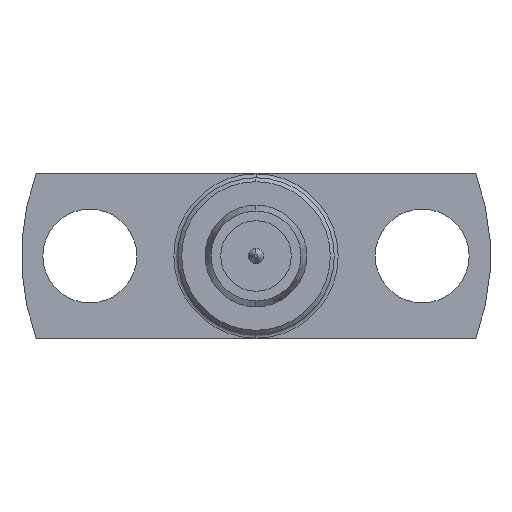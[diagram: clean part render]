
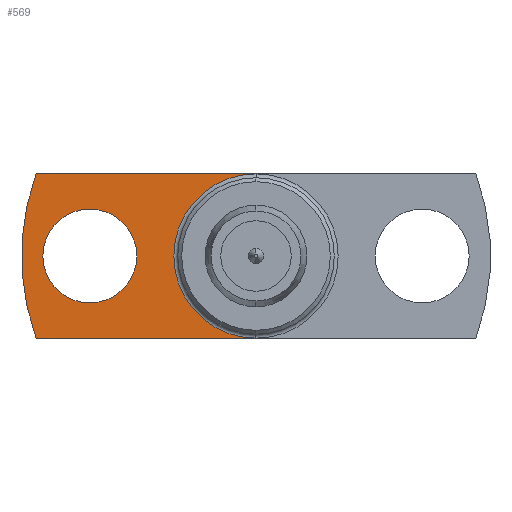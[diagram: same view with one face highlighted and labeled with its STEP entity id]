
A CAD part, left-side view. The second image highlights one B-rep face of the part: STEP entity #569.
In plain terms, the highlighted planar face has unit normal (-1, 0, 0).
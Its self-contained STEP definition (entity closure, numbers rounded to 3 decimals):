
#7 = ORIENTED_EDGE ( 'NONE', *, *, #696, .F. ) ;
#8 = DIRECTION ( 'NONE',  ( 1., 0., 0. ) ) ;
#58 = AXIS2_PLACEMENT_3D ( 'NONE', #1845, #961, #91 ) ;
#91 = DIRECTION ( 'NONE',  ( 0., 0., -1. ) ) ;
#98 = PLANE ( 'NONE',  #312 ) ;
#144 = CIRCLE ( 'NONE', #1077, 1.2 ) ;
#166 = DIRECTION ( 'NONE',  ( 0., 0., -1. ) ) ;
#194 = AXIS2_PLACEMENT_3D ( 'NONE', #892, #8, #166 ) ;
#196 = EDGE_CURVE ( 'NONE', #203, #953, #1695, .T. ) ;
#203 = VERTEX_POINT ( 'NONE', #1252 ) ;
#253 = CARTESIAN_POINT ( 'NONE',  ( -1.75, 5.62, 2.1 ) ) ;
#302 = LINE ( 'NONE', #742, #428 ) ;
#303 = DIRECTION ( 'NONE',  ( -1., 0., 0. ) ) ;
#312 = AXIS2_PLACEMENT_3D ( 'NONE', #1111, #1512, #527 ) ;
#350 = EDGE_CURVE ( 'NONE', #1625, #1769, #938, .T. ) ;
#401 = EDGE_CURVE ( 'NONE', #1769, #1358, #748, .T. ) ;
#428 = VECTOR ( 'NONE', #1587, 1000. ) ;
#502 = VERTEX_POINT ( 'NONE', #927 ) ;
#527 = DIRECTION ( 'NONE',  ( 0., 0., -1. ) ) ;
#534 = EDGE_LOOP ( 'NONE', ( #1387, #1697 ) ) ;
#569 = ADVANCED_FACE ( 'NONE', ( #1844, #1725 ), #98, .F. ) ;
#696 = EDGE_CURVE ( 'NONE', #502, #1625, #302, .T. ) ;
#713 = EDGE_LOOP ( 'NONE', ( #7, #1850, #1207, #1712 ) ) ;
#742 = CARTESIAN_POINT ( 'NONE',  ( -1.75, 5.62, -2.1 ) ) ;
#744 = DIRECTION ( 'NONE',  ( 0., 0., -1. ) ) ;
#748 = LINE ( 'NONE', #1187, #841 ) ;
#841 = VECTOR ( 'NONE', #1052, 1000. ) ;
#883 = CARTESIAN_POINT ( 'NONE',  ( -1.75, 4.25, 0. ) ) ;
#892 = CARTESIAN_POINT ( 'NONE',  ( -1.75, 4.25, 0. ) ) ;
#927 = CARTESIAN_POINT ( 'NONE',  ( -1.75, 0., -2.1 ) ) ;
#938 = CIRCLE ( 'NONE', #58, 6. ) ;
#953 = VERTEX_POINT ( 'NONE', #1685 ) ;
#961 = DIRECTION ( 'NONE',  ( 1., 0., 0. ) ) ;
#973 = CARTESIAN_POINT ( 'NONE',  ( -1.75, 0., 2.1 ) ) ;
#1052 = DIRECTION ( 'NONE',  ( 0., -1., 0. ) ) ;
#1077 = AXIS2_PLACEMENT_3D ( 'NONE', #883, #1758, #744 ) ;
#1111 = CARTESIAN_POINT ( 'NONE',  ( -1.75, 0., 0. ) ) ;
#1121 = EDGE_CURVE ( 'NONE', #1358, #502, #1783, .T. ) ;
#1141 = EDGE_CURVE ( 'NONE', #953, #203, #144, .T. ) ;
#1176 = DIRECTION ( 'NONE',  ( 0., 0., 1. ) ) ;
#1187 = CARTESIAN_POINT ( 'NONE',  ( -1.75, 5.62, 2.1 ) ) ;
#1207 = ORIENTED_EDGE ( 'NONE', *, *, #401, .F. ) ;
#1252 = CARTESIAN_POINT ( 'NONE',  ( -1.75, 4.25, 1.2 ) ) ;
#1323 = CARTESIAN_POINT ( 'NONE',  ( -1.75, 0., 0. ) ) ;
#1358 = VERTEX_POINT ( 'NONE', #973 ) ;
#1387 = ORIENTED_EDGE ( 'NONE', *, *, #1141, .T. ) ;
#1512 = DIRECTION ( 'NONE',  ( 1., 0., 0. ) ) ;
#1525 = CARTESIAN_POINT ( 'NONE',  ( -1.75, 5.62, -2.1 ) ) ;
#1587 = DIRECTION ( 'NONE',  ( 0., 1., 0. ) ) ;
#1625 = VERTEX_POINT ( 'NONE', #1525 ) ;
#1685 = CARTESIAN_POINT ( 'NONE',  ( -1.75, 4.25, -1.2 ) ) ;
#1695 = CIRCLE ( 'NONE', #194, 1.2 ) ;
#1697 = ORIENTED_EDGE ( 'NONE', *, *, #196, .T. ) ;
#1712 = ORIENTED_EDGE ( 'NONE', *, *, #350, .F. ) ;
#1725 = FACE_OUTER_BOUND ( 'NONE', #713, .T. ) ;
#1758 = DIRECTION ( 'NONE',  ( 1., 0., 0. ) ) ;
#1769 = VERTEX_POINT ( 'NONE', #253 ) ;
#1783 = CIRCLE ( 'NONE', #1904, 2.1 ) ;
#1844 = FACE_BOUND ( 'NONE', #534, .T. ) ;
#1845 = CARTESIAN_POINT ( 'NONE',  ( -1.75, 0., 0. ) ) ;
#1850 = ORIENTED_EDGE ( 'NONE', *, *, #1121, .F. ) ;
#1904 = AXIS2_PLACEMENT_3D ( 'NONE', #1323, #303, #1176 ) ;
